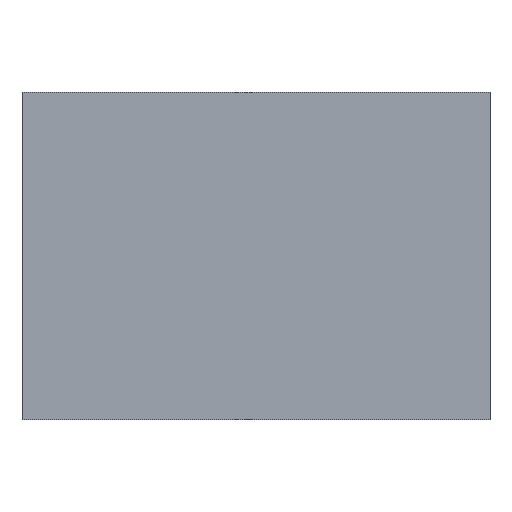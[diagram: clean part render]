
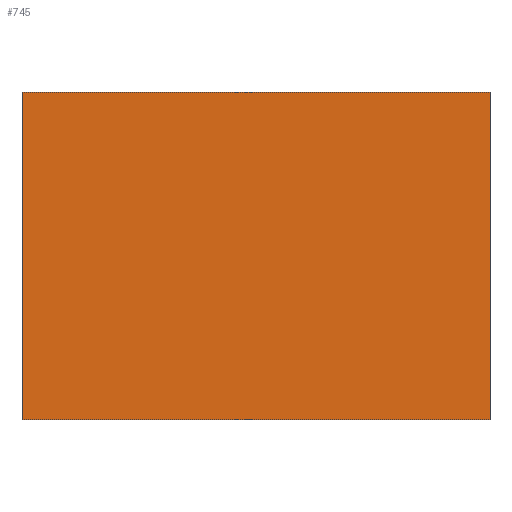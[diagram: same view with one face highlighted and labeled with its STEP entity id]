
A CAD part, front view. The second image highlights one B-rep face of the part: STEP entity #745.
In plain terms, the highlighted free-form (B-spline) face has degree [1, 1] with [2, 2] control points.
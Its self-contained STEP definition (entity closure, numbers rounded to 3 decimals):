
#462 = VERTEX_POINT('',#463);
#463 = CARTESIAN_POINT('',(14.,0.,9.8));
#468 = EDGE_CURVE('',#462,#469,#471,.T.);
#469 = VERTEX_POINT('',#470);
#470 = CARTESIAN_POINT('',(14.,0.,0.));
#471 = B_SPLINE_CURVE_WITH_KNOTS('',1,(#472,#473),.UNSPECIFIED.,.F.,.F.,
  (2,2),(2.,11.8),.PIECEWISE_BEZIER_KNOTS.);
#472 = CARTESIAN_POINT('',(14.,0.,9.8));
#473 = CARTESIAN_POINT('',(14.,0.,0.));
#521 = VERTEX_POINT('',#522);
#522 = CARTESIAN_POINT('',(0.,0.,9.8));
#527 = EDGE_CURVE('',#521,#528,#530,.T.);
#528 = VERTEX_POINT('',#529);
#529 = CARTESIAN_POINT('',(0.,0.,0.));
#530 = B_SPLINE_CURVE_WITH_KNOTS('',1,(#531,#532),.UNSPECIFIED.,.F.,.F.,
  (2,2),(2.,11.8),.PIECEWISE_BEZIER_KNOTS.);
#531 = CARTESIAN_POINT('',(0.,0.,9.8));
#532 = CARTESIAN_POINT('',(0.,0.,0.));
#603 = EDGE_CURVE('',#521,#462,#604,.T.);
#604 = B_SPLINE_CURVE_WITH_KNOTS('',1,(#605,#606),.UNSPECIFIED.,.F.,.F.,
  (2,2),(33.,47.),.PIECEWISE_BEZIER_KNOTS.);
#605 = CARTESIAN_POINT('',(0.,0.,9.8));
#606 = CARTESIAN_POINT('',(14.,0.,9.8));
#733 = EDGE_CURVE('',#528,#469,#734,.T.);
#734 = B_SPLINE_CURVE_WITH_KNOTS('',1,(#735,#736),.UNSPECIFIED.,.F.,.F.,
  (2,2),(33.,47.),.PIECEWISE_BEZIER_KNOTS.);
#735 = CARTESIAN_POINT('',(0.,0.,0.));
#736 = CARTESIAN_POINT('',(14.,0.,0.));
#745 = ADVANCED_FACE('',(#746),#752,.T.);
#746 = FACE_BOUND('',#747,.T.);
#747 = EDGE_LOOP('',(#748,#749,#750,#751));
#748 = ORIENTED_EDGE('',*,*,#603,.F.);
#749 = ORIENTED_EDGE('',*,*,#527,.T.);
#750 = ORIENTED_EDGE('',*,*,#733,.T.);
#751 = ORIENTED_EDGE('',*,*,#468,.F.);
#752 = B_SPLINE_SURFACE_WITH_KNOTS('',1,1,(
    (#753,#754)
    ,(#755,#756
    )),.UNSPECIFIED.,.F.,.F.,.F.,(2,2),(2,2),(0.,9.8),(33.,47.),
  .PIECEWISE_BEZIER_KNOTS.);
#753 = CARTESIAN_POINT('',(0.,0.,9.8));
#754 = CARTESIAN_POINT('',(14.,0.,9.8));
#755 = CARTESIAN_POINT('',(0.,0.,0.));
#756 = CARTESIAN_POINT('',(14.,0.,0.));
